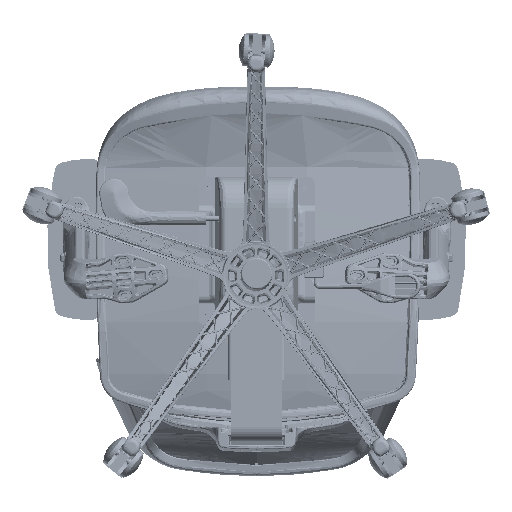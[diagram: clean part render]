
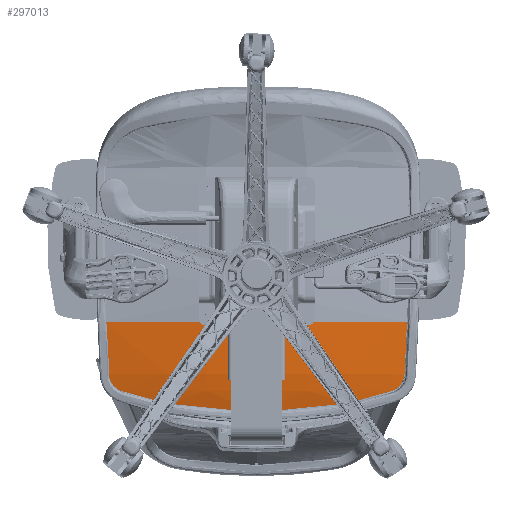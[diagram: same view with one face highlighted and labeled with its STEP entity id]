
A CAD part, front view. The second image highlights one B-rep face of the part: STEP entity #297013.
In plain terms, the highlighted toroidal (fillet/blend) face has major radius 870.458 mm and minor radius 664.666 mm.
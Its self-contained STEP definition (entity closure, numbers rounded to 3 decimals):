
#296911=CARTESIAN_POINT('',(-172.481,-79.579,
229.844));
#296912=CARTESIAN_POINT('',(-174.511,-79.826,
229.72));
#296913=CARTESIAN_POINT('',(-178.435,-80.267,
229.106));
#296914=CARTESIAN_POINT('',(-183.944,-80.757,
227.071));
#296915=CARTESIAN_POINT('',(-188.986,-81.07,
223.989));
#296916=CARTESIAN_POINT('',(-193.246,-81.179,
220.077));
#296917=CARTESIAN_POINT('',(-196.741,-81.078,
215.339));
#296918=CARTESIAN_POINT('',(-198.389,-80.867,
211.834));
#296919=CARTESIAN_POINT('',(-199.057,-80.724,
209.977));
#296921=CARTESIAN_POINT('',(-199.057,-80.724,
209.977));
#296922=CARTESIAN_POINT('',(-201.734,-80.146,
202.492));
#296923=CARTESIAN_POINT('',(-206.732,-79.056,
187.39));
#296924=CARTESIAN_POINT('',(-213.176,-77.598,
164.324));
#296925=CARTESIAN_POINT('',(-216.747,-76.736,
148.724));
#296926=CARTESIAN_POINT('',(-218.354,-76.331,
140.865));
#296928=CARTESIAN_POINT('',(-218.354,-76.331,
140.865));
#296929=CARTESIAN_POINT('',(-221.151,-75.466,
125.463));
#296930=CARTESIAN_POINT('',(-225.934,-74.062,
94.496));
#296931=CARTESIAN_POINT('',(-230.722,-72.907,
47.445));
#296932=CARTESIAN_POINT('',(-232.271,-72.76,
15.915));
#296933=CARTESIAN_POINT('',(-232.641,-72.842,
0.089));
#296935=CARTESIAN_POINT('',(-232.641,-72.842,
0.089));
#296936=CARTESIAN_POINT('',(-232.275,-72.759,
-15.792));
#296937=CARTESIAN_POINT('',(-230.729,-72.907,
-47.413));
#296938=CARTESIAN_POINT('',(-225.94,-74.062,
-94.478));
#296939=CARTESIAN_POINT('',(-221.142,-75.467,
-125.501));
#296940=CARTESIAN_POINT('',(-218.335,-76.334,
-140.932));
#296942=CARTESIAN_POINT('',(-218.335,-76.334,
-140.932));
#296943=CARTESIAN_POINT('',(-216.733,-76.739,
-148.774));
#296944=CARTESIAN_POINT('',(-213.17,-77.6,
-164.347));
#296945=CARTESIAN_POINT('',(-206.727,-79.057,
-187.411));
#296946=CARTESIAN_POINT('',(-201.725,-80.148,
-202.515));
#296947=CARTESIAN_POINT('',(-199.044,-80.726,
-210.004));
#296949=CARTESIAN_POINT('',(-199.044,-80.726,
-210.004));
#296950=CARTESIAN_POINT('',(-198.37,-80.869,
-211.872));
#296951=CARTESIAN_POINT('',(-196.712,-81.081,
-215.393));
#296952=CARTESIAN_POINT('',(-193.201,-81.178,
-220.126));
#296953=CARTESIAN_POINT('',(-188.945,-81.068,
-224.018));
#296954=CARTESIAN_POINT('',(-183.912,-80.755,
-227.083));
#296955=CARTESIAN_POINT('',(-178.441,-80.267,
-229.103));
#296956=CARTESIAN_POINT('',(-174.515,-79.827,
-229.717));
#296957=CARTESIAN_POINT('',(-172.481,-79.579,
-229.844));
#296959=CARTESIAN_POINT('',(-172.481,-79.579,
-229.844));
#296960=CARTESIAN_POINT('',(-163.576,-78.487,
-230.343));
#296961=CARTESIAN_POINT('',(-145.718,-76.66,
-231.285));
#296962=CARTESIAN_POINT('',(-118.836,-74.995,
-232.526));
#296963=CARTESIAN_POINT('',(-100.879,-74.602,
-233.238));
#296964=CARTESIAN_POINT('',(-91.899,-74.586,
-233.564));
#296966=CARTESIAN_POINT('',(-91.899,-1591.82,0.));
#296967=DIRECTION('',(1.,0.,0.));
#296968=DIRECTION('',(0.,0.988,-0.152));
#296969=AXIS2_PLACEMENT_3D('',#296966,#296967,#296968);
#296971=CARTESIAN_POINT('',(-91.899,-74.586,
233.564));
#296972=CARTESIAN_POINT('',(-100.879,-74.602,
233.238));
#296973=CARTESIAN_POINT('',(-118.835,-74.995,
232.526));
#296974=CARTESIAN_POINT('',(-145.718,-76.66,
231.285));
#296975=CARTESIAN_POINT('',(-163.575,-78.487,
230.343));
#296976=CARTESIAN_POINT('',(-172.481,-79.579,
229.844));
#296978=VERTEX_POINT('',#296911);
#296979=VERTEX_POINT('',#296919);
#296980=VERTEX_POINT('',#296926);
#296981=VERTEX_POINT('',#296933);
#296982=VERTEX_POINT('',#296940);
#296983=VERTEX_POINT('',#296947);
#296984=VERTEX_POINT('',#296957);
#296985=VERTEX_POINT('',#296964);
#296986=CARTESIAN_POINT('',(-91.899,-74.586,
233.564));
#296987=VERTEX_POINT('',#296986);
#296988=CARTESIAN_POINT('',(-87.03,-1591.82,0.));
#296989=DIRECTION('',(1.,0.,0.));
#296990=DIRECTION('',(0.,0.988,0.152));
#296991=AXIS2_PLACEMENT_3D('',#296988,#296989,#296990);
#296992=TOROIDAL_SURFACE('',#296991,870.458,664.666);
#296994=ORIENTED_EDGE('',*,*,#296993,.T.);
#296996=ORIENTED_EDGE('',*,*,#296995,.T.);
#296998=ORIENTED_EDGE('',*,*,#296997,.T.);
#297000=ORIENTED_EDGE('',*,*,#296999,.T.);
#297002=ORIENTED_EDGE('',*,*,#297001,.T.);
#297004=ORIENTED_EDGE('',*,*,#297003,.T.);
#297006=ORIENTED_EDGE('',*,*,#297005,.T.);
#297008=ORIENTED_EDGE('',*,*,#297007,.T.);
#297010=ORIENTED_EDGE('',*,*,#297009,.T.);
#297011=EDGE_LOOP('',(#296994,#296996,#296998,#297000,#297002,#297004,#297006,
#297008,#297010));
#297012=FACE_OUTER_BOUND('',#297011,.F.);
#297013=ADVANCED_FACE('',(#297012),#296992,.T.);
#296920=B_SPLINE_CURVE_WITH_KNOTS('',3,(#296911,#296912,#296913,#296914,#296915,
#296916,#296917,#296918,#296919),.UNSPECIFIED.,.F.,.F.,(4,1,1,1,1,1,4),(0.,
0.167,0.333,0.5,0.667,0.833,
1.),.UNSPECIFIED.);
#296927=B_SPLINE_CURVE_WITH_KNOTS('',3,(#296921,#296922,#296923,#296924,#296925,
#296926),.UNSPECIFIED.,.F.,.F.,(4,1,1,4),(0.,0.333,
0.667,1.),.UNSPECIFIED.);
#296934=B_SPLINE_CURVE_WITH_KNOTS('',3,(#296928,#296929,#296930,#296931,#296932,
#296933),.UNSPECIFIED.,.F.,.F.,(4,1,1,4),(0.,0.333,
0.667,1.),.UNSPECIFIED.);
#296941=B_SPLINE_CURVE_WITH_KNOTS('',3,(#296935,#296936,#296937,#296938,#296939,
#296940),.UNSPECIFIED.,.F.,.F.,(4,1,1,4),(0.,0.333,
0.667,1.),.UNSPECIFIED.);
#296948=B_SPLINE_CURVE_WITH_KNOTS('',3,(#296942,#296943,#296944,#296945,#296946,
#296947),.UNSPECIFIED.,.F.,.F.,(4,1,1,4),(0.,0.333,
0.667,1.),.UNSPECIFIED.);
#296958=B_SPLINE_CURVE_WITH_KNOTS('',3,(#296949,#296950,#296951,#296952,#296953,
#296954,#296955,#296956,#296957),.UNSPECIFIED.,.F.,.F.,(4,1,1,1,1,1,4),(0.,
0.167,0.333,0.5,0.667,0.833,
1.),.UNSPECIFIED.);
#296965=B_SPLINE_CURVE_WITH_KNOTS('',3,(#296959,#296960,#296961,#296962,#296963,
#296964),.UNSPECIFIED.,.F.,.F.,(4,1,1,4),(0.,0.333,
0.667,1.),.UNSPECIFIED.);
#296970=CIRCLE('',#296969,1535.106);
#296977=B_SPLINE_CURVE_WITH_KNOTS('',3,(#296971,#296972,#296973,#296974,#296975,
#296976),.UNSPECIFIED.,.F.,.F.,(4,1,1,4),(0.,0.333,
0.667,1.),.UNSPECIFIED.);
#296993=EDGE_CURVE('',#296978,#296979,#296920,.T.);
#296995=EDGE_CURVE('',#296979,#296980,#296927,.T.);
#296997=EDGE_CURVE('',#296980,#296981,#296934,.T.);
#296999=EDGE_CURVE('',#296981,#296982,#296941,.T.);
#297001=EDGE_CURVE('',#296982,#296983,#296948,.T.);
#297003=EDGE_CURVE('',#296983,#296984,#296958,.T.);
#297005=EDGE_CURVE('',#296984,#296985,#296965,.T.);
#297007=EDGE_CURVE('',#296985,#296987,#296970,.T.);
#297009=EDGE_CURVE('',#296987,#296978,#296977,.T.);
